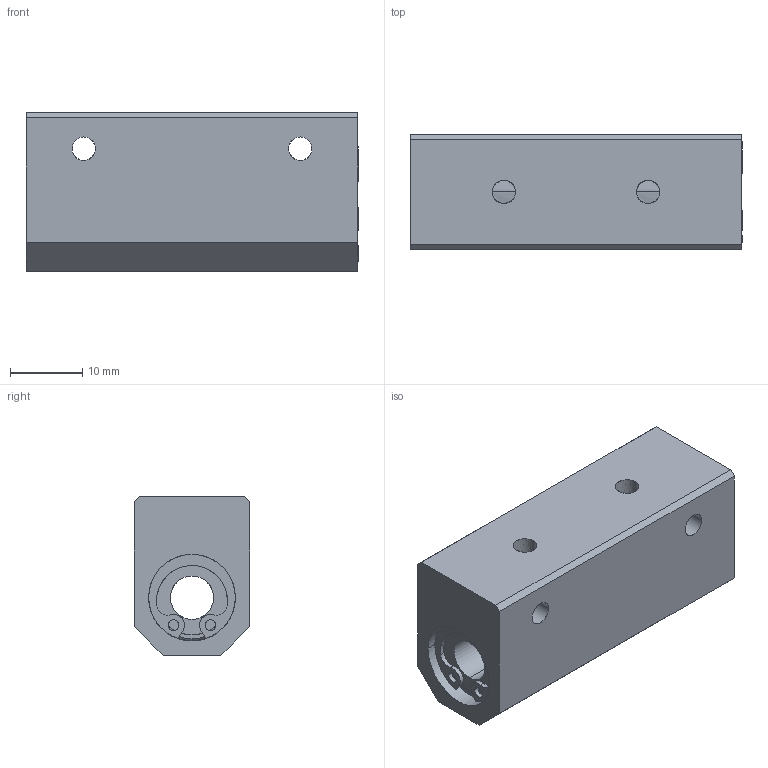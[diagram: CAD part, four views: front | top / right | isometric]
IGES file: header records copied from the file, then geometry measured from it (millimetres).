
Global section: file name: No Iges File Name specified; native system: AutoDesk Inventor R10; preprocessor: AutoDesk Inventor Iges Exporter R10; author: No Author specified; organization: No Organization specified; date: 20101216.152103; units: millimetre
Bounding box: 46 x 16 x 22 mm (x, y, z)
Surface area: 5737.4 mm2 (no closed solid volume)
Topology: 0 solids, 0 shells, 94 faces, 764 edges, 764 vertices
Faces by surface type: bspline 94
